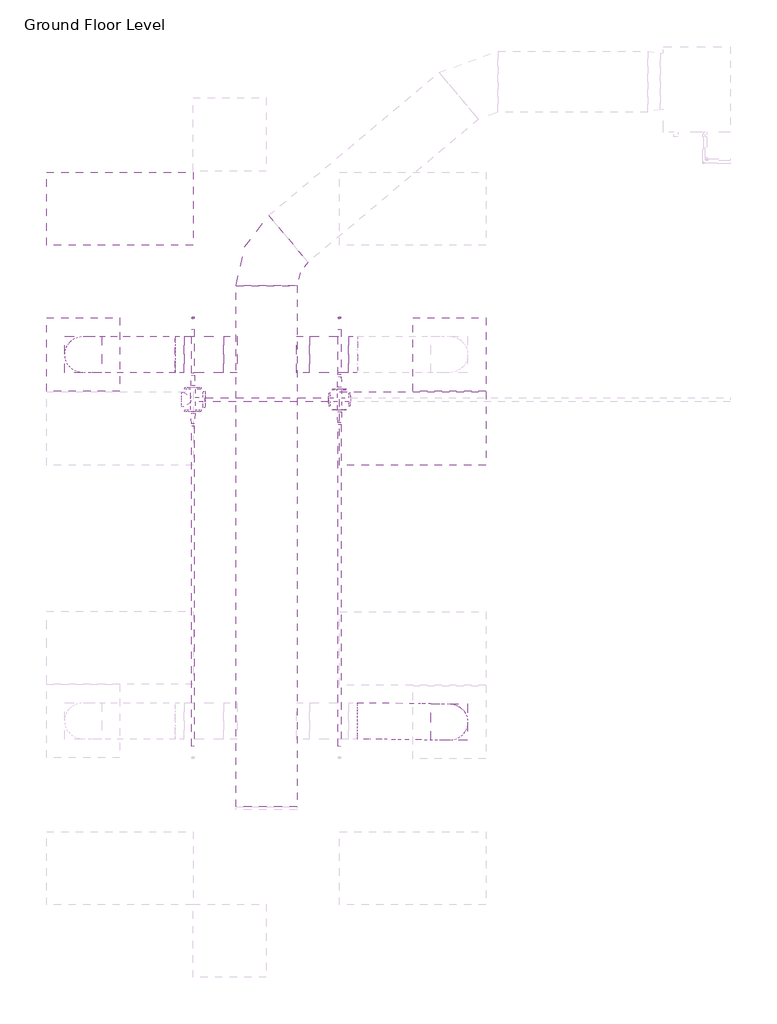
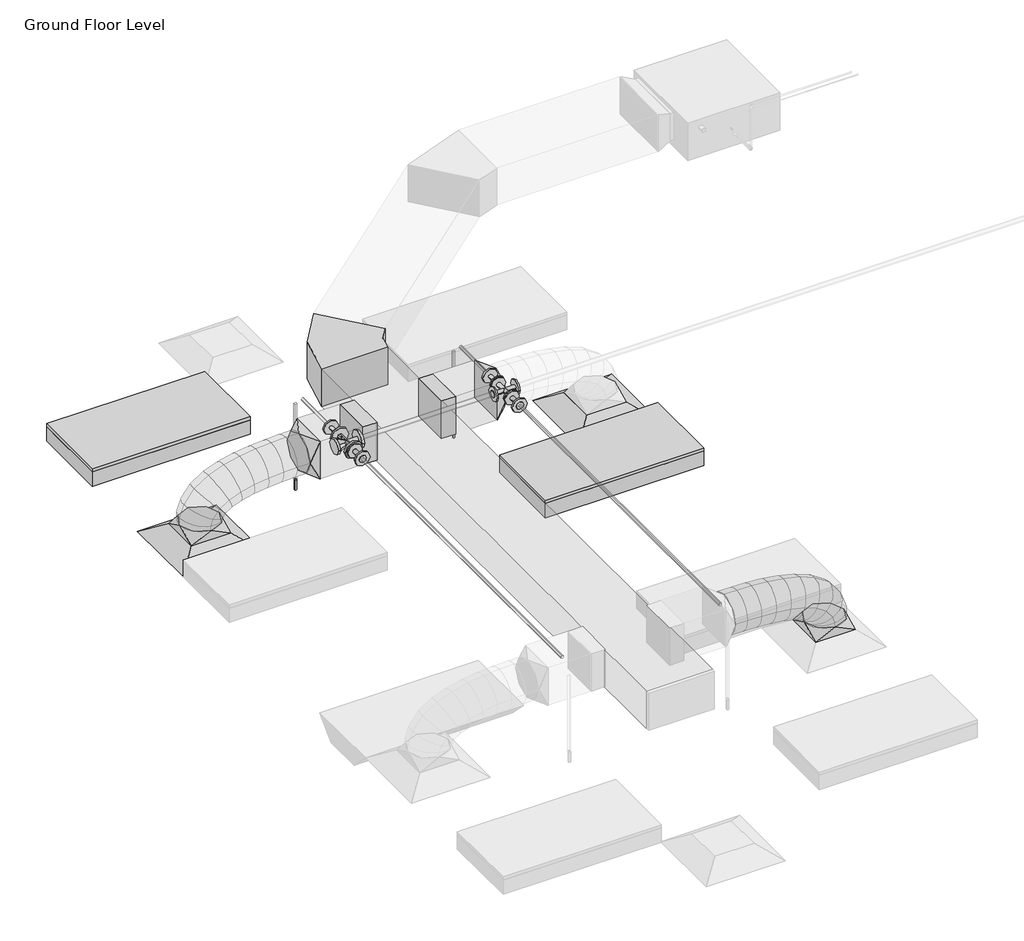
# One storey, part 2 of 74: 7 duct fittings, 7 pipe segments, 6 pipe fittings, 5 duct segments, 2 air terminals, 2 fire suppression terminals, 2 light fixtures.
"""IFC4 building model written with IfcOpenShell, lengths in millimetres."""

from ifc_helpers import new_model, si_unit, point, frame, frame_2d, origin, place, context, project, spatial, polyline, circle_curve, ellipse_curve, trimmed, segment, composite_curve, outline, extrude, transform, mapped, element, save
from ifc_brep_helpers import plane_surface, cylinder_surface, advanced_brep
from components import m_return_diffuser_600_x_600_face_300_x_300_connection_ff221211, m_rectangular_elbow_radius_1_w_5e0afaab, m_rectangular_takeoff_standard_cb0ccb98, m_rectangular_takeoff_standard_2be5eba1, m_rectangular_to_round_transition_angle_45_degree_641efff0, m_sprinkler_dry_pendent_hosted_15_mm_dry_pendent_9bda8e11, m_troffer_light_parabolic_rectangular1_0600x1200mm_4_lamp_86473d4a, m_cross_flanged_cs_class_150_standard_16d34c5c, m_reducer_flanged_cs_class_150_standard_ccf252ad, m_tee_round_base_flanged_cs_class_150_standard_7e5987a1

model = new_model("IFC4")

# Units and contexts
model_context = context("Model", 3, world=origin())
ifc_project = project(units=[si_unit("LENGTHUNIT", "METRE", prefix="MILLI")], contexts=[model_context])

# Site, building, storey
site = spatial("IfcSite", under=ifc_project)
building = spatial("IfcBuilding", under=site)
storey = spatial("IfcBuildingStorey", under=building, Name="Ground Floor Level", Elevation=900.0)

# Air terminals
placement = place(None, origin())
m_return_diffuser_600_x_600_face_300_x_300_connection_shape = m_return_diffuser_600_x_600_face_300_x_300_connection_ff221211(model_context)
element("IfcAirTerminal", 1, ObjectType="M_Supply Diffuser : 600 x 600 Face 300 x 300 Connection", at=placement, inside=storey, context=model_context, shape_type="MappedRepresentation", body=[
    mapped(m_return_diffuser_600_x_600_face_300_x_300_connection_shape, transform((-20337.2327605, -35664.7846466, 3650.0), x_axis=(1.0, 0.0, 0.0), y_axis=(0.0, 1.0, 0.0), z_axis=(0.0, 0.0, 1.0))),
])
element("IfcAirTerminal", 2, ObjectType="M_Supply Diffuser : 600 x 600 Face 300 x 300 Connection", at=placement, inside=storey, context=model_context, shape_type="MappedRepresentation", body=[
    mapped(m_return_diffuser_600_x_600_face_300_x_300_connection_shape, transform((-17337.2327605, -35664.7846466, 3650.0), x_axis=(1.0, 0.0, 0.0), y_axis=(0.0, 1.0, 0.0), z_axis=(0.0, 0.0, 1.0))),
])

# Duct fittings
m_rectangular_elbow_radius_1_w_shape = m_rectangular_elbow_radius_1_w_5e0afaab(model_context)
element("IfcDuctFitting", 3, ObjectType="M_Rectangular Elbow - Radius : 1 W", at=placement, inside=storey, context=model_context, shape_type="MappedRepresentation", body=[
    mapped(m_rectangular_elbow_radius_1_w_shape, transform((-18834.0450532, -34868.1580197, 4100.0), x_axis=(-0.7660444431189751, -0.6427876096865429, 0.0), y_axis=(0.6427876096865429, -0.7660444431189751, 0.0), z_axis=(0.0, 0.0, 1.0))),
])
m_rectangular_takeoff_standard_shape = m_rectangular_takeoff_standard_cb0ccb98(model_context)
element("IfcDuctFitting", 4, ObjectType="M_Rectangular Takeoff : Standard", at=placement, inside=storey, context=model_context, shape_type="MappedRepresentation", body=[
    mapped(m_rectangular_takeoff_standard_shape, transform((-18584.0450532, -35664.7846466, 4100.0), x_axis=(1.0, 0.0, 0.0), y_axis=(0.0, -1.0, 0.0), z_axis=(0.0, 0.0, -1.0))),
])
m_rectangular_takeoff_standard_2_shape = m_rectangular_takeoff_standard_2be5eba1(model_context)
element("IfcDuctFitting", 5, ObjectType="M_Rectangular Takeoff : Standard", at=placement, inside=storey, context=model_context, shape_type="MappedRepresentation", body=[
    mapped(m_rectangular_takeoff_standard_2_shape, transform((-19084.0450532, -35664.7846466, 4100.0), x_axis=(-1.0, 0.0, 0.0), y_axis=(0.0, 1.0, 0.0), z_axis=(0.0, 0.0, -1.0))),
])
m_rectangular_to_round_transition_angle_45_degree_shape = m_rectangular_to_round_transition_angle_45_degree_641efff0(model_context)
element("IfcDuctFitting", 6, ObjectType="M_Rectangular to Round Transition - Angle : 45 Degree", at=placement, inside=storey, context=model_context, shape_type="MappedRepresentation", body=[
    mapped(m_rectangular_to_round_transition_angle_45_degree_shape, transform((-17337.2327605, -38674.7846466, 3751.6), x_axis=(0.0, 0.0, 1.0), y_axis=(-1.0, 0.0, 0.0), z_axis=(0.0, -1.0, 0.0))),
])
element("IfcDuctFitting", 7, ObjectType="M_Rectangular to Round Transition - Angle : 45 Degree", at=placement, inside=storey, context=model_context, shape_type="MappedRepresentation", body=[
    mapped(m_rectangular_to_round_transition_angle_45_degree_shape, transform((-18164.5686918, -35664.7846466, 4100.0), x_axis=(1.0, 0.0, 0.0), y_axis=(0.0, 1.0, 0.0), z_axis=(0.0, 0.0, 1.0))),
])
element("IfcDuctFitting", 8, ObjectType="M_Rectangular to Round Transition - Angle : 45 Degree", at=placement, inside=storey, context=model_context, shape_type="MappedRepresentation", body=[
    mapped(m_rectangular_to_round_transition_angle_45_degree_shape, transform((-20337.2327605, -35664.7846466, 3751.6), x_axis=(0.0, 0.0, 1.0), y_axis=(-1.0, 0.0, 0.0), z_axis=(0.0, -1.0, 0.0))),
])
element("IfcDuctFitting", 9, ObjectType="M_Rectangular to Round Transition - Angle : 45 Degree", at=placement, inside=storey, context=model_context, shape_type="MappedRepresentation", body=[
    mapped(m_rectangular_to_round_transition_angle_45_degree_shape, transform((-19509.8968292, -35664.7846466, 4100.0), x_axis=(-1.0, 0.0, 0.0), y_axis=(0.0, -1.0, 0.0), z_axis=(0.0, 0.0, 1.0))),
])

# Duct segments
element("IfcDuctSegment", 10, ObjectType="Flex - Round", at=placement, inside=storey, context=model_context, shape_type="AdvancedBrep", body=[
    advanced_brep(
    [(-17187.2327605, -38674.7846466, 3826.6), (-17337.2327605, -38824.7846466, 3826.6), (-17487.2327605, -38674.7846466, 3826.6), (-17337.2327605, -38524.7846466, 3826.6), (-17187.2327605, -38674.7846466, 3883.5811435), (-17337.2327605, -38824.7846466, 3858.4573033), (-17487.2327605, -38674.7846466, 3832.2999102), (-17337.2327605, -38524.7846466, 3857.4237504), (-17220.5065009, -38674.1140276, 3978.0633672), (-17354.5653042, -38824.4353161, 3907.6738102), (-17487.9895144, -38674.7693946, 3834.4487455), (-17353.930711, -38524.4481061, 3904.8383025), (-17297.2134505, -38672.6198436, 4079.6143693), (-17402.2800911, -38823.5058739, 3970.8425901), (-17505.6468983, -38674.4254442, 3857.8250502), (-17400.5802577, -38523.5394138, 3966.5968294), (-17404.0296759, -38670.6335237, 4150.3133378), (-17474.402715, -38822.164705, 4018.5787378), (-17541.9381219, -38673.7505844, 3881.8452968), (-17471.5650828, -38522.2194031, 4013.5798968), (-17519.5269288, -38668.6120272, 4194.3234542), (-17564.8413306, -38820.5817986, 4053.0402848), (-17606.7007096, -38672.617074, 3906.5230182), (-17561.3863078, -38520.6473026, 4047.8061876), (-17639.435491, -38666.6780682, 4221.6077681), (-17667.8354832, -38818.9206456, 4076.4758488), (-17692.6136559, -38671.2314171, 3926.0718789), (-17664.2136637, -38518.9888397, 4071.2037982), (-17760.7431245, -38664.9367599, 4237.6990915), (-17777.628691, -38817.3446209, 4091.0397964), (-17791.098475, -38669.8177185, 3939.1357813), (-17774.2129084, -38517.4098575, 4085.7950764), (-17879.4797035, -38663.5145356, 4246.0651131), (-17888.4220057, -38816.0175409, 4098.8461461), (-17894.5345688, -38668.5787631, 3946.423751), (-17885.5922666, -38516.0757579, 4093.642718), (-17990.7832838, -38662.5538441, 4249.3731785), (-17994.3566612, -38815.10319, 4101.9946411), (-17996.1931578, -38667.7013202, 3949.4451566), (-17992.6197804, -38515.1519743, 4096.823694), (-18088.6372346, -38662.2045786, 4249.9749167), (-18089.0492722, -38514.807793, 4097.4166727), (-18090.500149, -38667.3647146, 3950.0250833), (-18090.0881114, -38814.7615002, 4102.5833273)],
    [
        (0, 1, circle_curve(frame((-17337.2327605, -38674.7846466, 3826.6), z_axis=(0.0, 0.0, -1.0), x_axis=(1.0, 0.0, 0.0)), 150.0)),
        (1, 2, circle_curve(frame((-17337.2327605, -38674.7846466, 3826.6), z_axis=(0.0, 0.0, -1.0), x_axis=(1.0, 0.0, 0.0)), 150.0)),
        (2, 3, circle_curve(frame((-17337.2327605, -38674.7846466, 3826.6), z_axis=(0.0, 0.0, -1.0), x_axis=(1.0, 0.0, 0.0)), 150.0)),
        (3, 0, circle_curve(frame((-17337.2327605, -38674.7846466, 3826.6), z_axis=(0.0, 0.0, -1.0), x_axis=(1.0, 0.0, 0.0)), 150.0)),
        (0, 4),
        (4, 5, ellipse_curve(frame((-17337.2327605, -38674.7846466, 3857.9405269), z_axis=(0.16849253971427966, -0.003395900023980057, -0.9856970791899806), x_axis=(-0.9854969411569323, 0.019862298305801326, -0.16852675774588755)), 152.1765694, 150.0)),
        (5, 1),
        (5, 6, ellipse_curve(frame((-17337.2327605, -38674.7846466, 3857.9405269), z_axis=(0.16849253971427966, -0.003395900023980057, -0.9856970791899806), x_axis=(-0.9854969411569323, 0.019862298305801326, -0.16852675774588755)), 152.1765694, 150.0)),
        (6, 2),
        (6, 7, ellipse_curve(frame((-17337.2327605, -38674.7846466, 3857.9405269), z_axis=(0.16849253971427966, -0.003395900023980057, -0.9856970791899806), x_axis=(-0.9854969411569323, 0.019862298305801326, -0.16852675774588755)), 152.1765694, 150.0)),
        (7, 3),
        (7, 4, ellipse_curve(frame((-17337.2327605, -38674.7846466, 3857.9405269), z_axis=(0.16849253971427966, -0.003395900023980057, -0.9856970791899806), x_axis=(-0.9854969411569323, 0.019862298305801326, -0.16852675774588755)), 152.1765694, 150.0)),
        (4, 8),
        (8, 9, ellipse_curve(frame((-17354.2480076, -38674.4417111, 3906.2560563), z_axis=(0.4730377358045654, -0.009327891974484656, -0.8809927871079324), x_axis=(-0.8808397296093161, 0.016427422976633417, -0.4731294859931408)), 151.8004616, 150.0)),
        (9, 5),
        (9, 10, ellipse_curve(frame((-17354.2480076, -38674.4417111, 3906.2560563), z_axis=(0.4730377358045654, -0.009327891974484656, -0.8809927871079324), x_axis=(-0.8808397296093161, 0.016427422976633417, -0.4731294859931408)), 151.8004616, 150.0)),
        (10, 6),
        (10, 11, ellipse_curve(frame((-17354.2480076, -38674.4417111, 3906.2560563), z_axis=(0.4730377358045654, -0.009327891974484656, -0.8809927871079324), x_axis=(-0.8808397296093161, 0.016427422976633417, -0.4731294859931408)), 151.8004616, 150.0)),
        (11, 7),
        (11, 8, ellipse_curve(frame((-17354.2480076, -38674.4417111, 3906.2560563), z_axis=(0.4730377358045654, -0.009327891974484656, -0.8809927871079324), x_axis=(-0.8808397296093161, 0.016427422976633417, -0.4731294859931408)), 151.8004616, 150.0)),
        (8, 12),
        (12, 13, ellipse_curve(frame((-17401.4301744, -38673.5226439, 3968.7197097), z_axis=(0.7286937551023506, -0.013820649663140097, -0.6847002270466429), x_axis=(-0.6846106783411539, 0.011153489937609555, -0.7288235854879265)), 152.1833249, 150.0)),
        (13, 9),
        (13, 14, ellipse_curve(frame((-17401.4301744, -38673.5226439, 3968.7197097), z_axis=(0.7286937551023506, -0.013820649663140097, -0.6847002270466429), x_axis=(-0.6846106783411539, 0.011153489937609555, -0.7288235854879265)), 152.1833249, 150.0)),
        (14, 10),
        (14, 15, ellipse_curve(frame((-17401.4301744, -38673.5226439, 3968.7197097), z_axis=(0.7286937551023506, -0.013820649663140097, -0.6847002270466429), x_axis=(-0.6846106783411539, 0.011153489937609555, -0.7288235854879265)), 152.1833249, 150.0)),
        (15, 11),
        (15, 12, ellipse_curve(frame((-17401.4301744, -38673.5226439, 3968.7197097), z_axis=(0.7286937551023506, -0.013820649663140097, -0.6847002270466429), x_axis=(-0.6846106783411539, 0.011153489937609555, -0.7288235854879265)), 152.1833249, 150.0)),
        (12, 16),
        (16, 17, ellipse_curve(frame((-17472.9838989, -38672.192054, 4016.0793173), z_axis=(0.8894658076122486, -0.01602642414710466, -0.4567206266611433), x_axis=(-0.4567209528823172, 0.003853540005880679, -0.889601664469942)), 150.9170048, 150.0)),
        (17, 13),
        (17, 18, ellipse_curve(frame((-17472.9838989, -38672.192054, 4016.0793173), z_axis=(0.8894658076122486, -0.01602642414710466, -0.4567206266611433), x_axis=(-0.4567209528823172, 0.003853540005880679, -0.889601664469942)), 150.9170048, 150.0)),
        (18, 14),
        (18, 19, ellipse_curve(frame((-17472.9838989, -38672.192054, 4016.0793173), z_axis=(0.8894658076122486, -0.01602642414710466, -0.4567206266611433), x_axis=(-0.4567209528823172, 0.003853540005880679, -0.889601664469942)), 150.9170048, 150.0)),
        (19, 15),
        (19, 16, ellipse_curve(frame((-17472.9838989, -38672.192054, 4016.0793173), z_axis=(0.8894658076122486, -0.01602642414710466, -0.4567206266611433), x_axis=(-0.4567209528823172, 0.003853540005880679, -0.889601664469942)), 150.9170048, 150.0)),
        (16, 20),
        (20, 21, ellipse_curve(frame((-17563.1138192, -38670.6145506, 4050.4232362), z_axis=(0.9569982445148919, -0.01607849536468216, -0.2896477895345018), x_axis=(-0.2897513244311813, -0.004483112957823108, -0.9570914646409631)), 150.3699058, 150.0)),
        (21, 17),
        (21, 22, ellipse_curve(frame((-17563.1138192, -38670.6145506, 4050.4232362), z_axis=(0.9569982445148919, -0.01607849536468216, -0.2896477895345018), x_axis=(-0.2897513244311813, -0.004483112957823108, -0.9570914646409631)), 150.3699058, 150.0)),
        (22, 18),
        (22, 23, ellipse_curve(frame((-17563.1138192, -38670.6145506, 4050.4232362), z_axis=(0.9569982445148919, -0.01607849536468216, -0.2896477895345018), x_axis=(-0.2897513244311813, -0.004483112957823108, -0.9570914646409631)), 150.3699058, 150.0)),
        (23, 19),
        (23, 20, ellipse_curve(frame((-17563.1138192, -38670.6145506, 4050.4232362), z_axis=(0.9569982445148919, -0.01607849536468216, -0.2896477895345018), x_axis=(-0.2897513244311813, -0.004483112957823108, -0.9570914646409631)), 150.3699058, 150.0)),
        (20, 24),
        (24, 25, ellipse_curve(frame((-17666.0245734, -38668.9547426, 4073.8398235), z_axis=(0.984123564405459, -0.014992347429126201, -0.1768503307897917), x_axis=(-0.17708719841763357, -0.016295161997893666, -0.9840602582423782)), 150.1583433, 150.0)),
        (25, 21),
        (25, 26, ellipse_curve(frame((-17666.0245734, -38668.9547426, 4073.8398235), z_axis=(0.984123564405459, -0.014992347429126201, -0.1768503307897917), x_axis=(-0.17708719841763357, -0.016295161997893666, -0.9840602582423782)), 150.1583433, 150.0)),
        (26, 22),
        (26, 27, ellipse_curve(frame((-17666.0245734, -38668.9547426, 4073.8398235), z_axis=(0.984123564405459, -0.014992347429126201, -0.1768503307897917), x_axis=(-0.17708719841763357, -0.016295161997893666, -0.9840602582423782)), 150.1583433, 150.0)),
        (27, 23),
        (27, 24, ellipse_curve(frame((-17666.0245734, -38668.9547426, 4073.8398235), z_axis=(0.984123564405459, -0.014992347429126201, -0.1768503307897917), x_axis=(-0.17708719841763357, -0.016295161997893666, -0.9840602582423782)), 150.1583433, 150.0)),
        (24, 28),
        (28, 29, ellipse_curve(frame((-17775.9207997, -38667.3772392, 4088.4174364), z_axis=(0.994807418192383, -0.013094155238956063, -0.10092940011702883), x_axis=(-0.10135143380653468, -0.03704920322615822, -0.9941605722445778)), 150.071115, 150.0)),
        (29, 25),
        (29, 30, ellipse_curve(frame((-17775.9207997, -38667.3772392, 4088.4174364), z_axis=(0.994807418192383, -0.013094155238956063, -0.10092940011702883), x_axis=(-0.10135143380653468, -0.03704920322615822, -0.9941605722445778)), 150.071115, 150.0)),
        (30, 26),
        (30, 31, ellipse_curve(frame((-17775.9207997, -38667.3772392, 4088.4174364), z_axis=(0.994807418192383, -0.013094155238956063, -0.10092940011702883), x_axis=(-0.10135143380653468, -0.03704920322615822, -0.9941605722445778)), 150.071115, 150.0)),
        (31, 27),
        (31, 28, ellipse_curve(frame((-17775.9207997, -38667.3772392, 4088.4174364), z_axis=(0.994807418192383, -0.013094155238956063, -0.10092940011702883), x_axis=(-0.10135143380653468, -0.03704920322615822, -0.9941605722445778)), 150.071115, 150.0)),
        (28, 32),
        (32, 33, ellipse_curve(frame((-17887.0071361, -38666.0466494, 4096.2444321), z_axis=(0.9986960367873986, -0.01028946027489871, -0.050003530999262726), x_axis=(-0.05067714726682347, -0.08146024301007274, -0.9953873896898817)), 150.0311614, 150.0)),
        (33, 29),
        (33, 34, ellipse_curve(frame((-17887.0071361, -38666.0466494, 4096.2444321), z_axis=(0.9986960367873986, -0.01028946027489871, -0.050003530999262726), x_axis=(-0.05067714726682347, -0.08146024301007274, -0.9953873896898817)), 150.0311614, 150.0)),
        (34, 30),
        (34, 35, ellipse_curve(frame((-17887.0071361, -38666.0466494, 4096.2444321), z_axis=(0.9986960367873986, -0.01028946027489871, -0.050003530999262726), x_axis=(-0.05067714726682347, -0.08146024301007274, -0.9953873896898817)), 150.0311614, 150.0)),
        (35, 31),
        (35, 32, ellipse_curve(frame((-17887.0071361, -38666.0466494, 4096.2444321), z_axis=(0.9986960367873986, -0.01028946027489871, -0.050003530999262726), x_axis=(-0.05067714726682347, -0.08146024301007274, -0.9953873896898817)), 150.0311614, 150.0)),
        (32, 36),
        (36, 37, ellipse_curve(frame((-17993.4882208, -38665.1275822, 4099.4091675), z_axis=(0.9998206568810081, -0.006098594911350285, -0.017929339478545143), x_axis=(-0.018810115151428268, -0.2098848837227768, -0.9775451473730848)), 150.0108903, 150.0)),
        (37, 33),
        (37, 38, ellipse_curve(frame((-17993.4882208, -38665.1275822, 4099.4091675), z_axis=(0.9998206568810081, -0.006098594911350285, -0.017929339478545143), x_axis=(-0.018810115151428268, -0.2098848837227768, -0.9775451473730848)), 150.0108903, 150.0)),
        (38, 34),
        (38, 39, ellipse_curve(frame((-17993.4882208, -38665.1275822, 4099.4091675), z_axis=(0.9998206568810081, -0.006098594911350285, -0.017929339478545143), x_axis=(-0.018810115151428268, -0.2098848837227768, -0.9775451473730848)), 150.0108903, 150.0)),
        (39, 35),
        (39, 36, ellipse_curve(frame((-17993.4882208, -38665.1275822, 4099.4091675), z_axis=(0.9998206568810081, -0.006098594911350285, -0.017929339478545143), x_axis=(-0.018810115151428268, -0.2098848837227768, -0.9775451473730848)), 150.0108903, 150.0)),
        (40, 41, circle_curve(frame((-18089.5686918, -38664.7846466, 4100.0), z_axis=(-0.9999747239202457, 0.0035691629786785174, 0.006149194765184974), x_axis=(0.006209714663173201, 0.017200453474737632, 0.9998327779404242)), 150.0)),
        (41, 42, circle_curve(frame((-18089.5686918, -38664.7846466, 4100.0), z_axis=(-0.9999747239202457, 0.0035691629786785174, 0.006149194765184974), x_axis=(0.006209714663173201, 0.017200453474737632, 0.9998327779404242)), 150.0)),
        (42, 43, circle_curve(frame((-18089.5686918, -38664.7846466, 4100.0), z_axis=(-0.9999747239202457, 0.0035691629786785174, 0.006149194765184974), x_axis=(0.006209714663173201, 0.017200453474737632, 0.9998327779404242)), 150.0)),
        (43, 40, circle_curve(frame((-18089.5686918, -38664.7846466, 4100.0), z_axis=(-0.9999747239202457, 0.0035691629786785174, 0.006149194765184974), x_axis=(0.006209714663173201, 0.017200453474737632, 0.9998327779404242)), 150.0)),
        (36, 40),
        (43, 37),
        (42, 38),
        (41, 39),
    ],
    [
        plane_surface(frame((-17337.2327605, -38824.7846466, 3826.6), z_axis=(0.0, 0.0, -1.0), x_axis=(1.0, 0.0, 0.0))),
        cylinder_surface(frame((-17337.2327605, -38674.7846466, 3826.6), z_axis=(0.0, 0.0, -1.0), x_axis=(1.0, 0.0, 0.0)), 150.0),
        cylinder_surface(frame((-17337.2327605, -38674.7846466, 3857.9405269), z_axis=(0.3321652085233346, -0.006694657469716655, -0.9431974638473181), x_axis=(0.9432205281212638, 0.0011443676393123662, 0.3321652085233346)), 150.0),
        cylinder_surface(frame((-17354.2480076, -38674.4417111, 3906.2560563), z_axis=(0.6026891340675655, -0.011739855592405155, -0.7978897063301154), x_axis=(0.7979666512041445, 0.004008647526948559, 0.6026882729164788)), 150.0),
        cylinder_surface(frame((-17401.4301744, -38673.5226439, 3968.7197097), z_axis=(0.8337897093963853, -0.015504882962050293, -0.5518644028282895), x_axis=(0.5520221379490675, 0.008673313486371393, 0.8337843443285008)), 150.0),
        cylinder_surface(frame((-17472.9838989, -38672.192054, 4016.0793173), z_axis=(0.9343327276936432, -0.01635320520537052, -0.35602658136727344), x_axis=(0.3562341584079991, 0.012201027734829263, 0.9343170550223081)), 150.0),
        cylinder_surface(frame((-17563.1138192, -38670.6145506, 4050.4232362), z_axis=(0.9749553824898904, -0.01572468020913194, -0.22184394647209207), x_axis=(0.22206985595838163, 0.01445511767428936, 0.9749236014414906)), 150.0),
        cylinder_surface(frame((-17666.0245734, -38668.9547426, 4073.8398235), z_axis=(0.9912162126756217, -0.014228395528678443, -0.131483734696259), x_axis=(0.13170388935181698, 0.015831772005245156, 0.9911626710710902)), 150.0),
        cylinder_surface(frame((-17775.9207997, -38667.3772392, 4088.4174364), z_axis=(0.9974557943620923, -0.0119475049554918, -0.070279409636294), x_axis=(0.07047299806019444, 0.016637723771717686, 0.9973749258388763)), 150.0),
        cylinder_surface(frame((-17887.0071361, -38666.0466494, 4096.2444321), z_axis=(0.9995214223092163, -0.008627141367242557, -0.029706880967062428), x_axis=(0.02985075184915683, 0.01705625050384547, 0.9994088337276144)), 150.0),
        plane_surface(frame((-18089.5686918, -38794.5152374, 4175.2992285), z_axis=(-0.9999747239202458, 0.00356916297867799, 0.006149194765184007), x_axis=(0.007109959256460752, 0.5019821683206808, 0.8648487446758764))),
        cylinder_surface(frame((-17993.4882208, -38665.1275822, 4099.4091675), z_axis=(0.9999747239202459, -0.0035691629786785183, -0.0061491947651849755), x_axis=(0.006209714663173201, 0.017200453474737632, 0.9998327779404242)), 150.0),
    ],
    [
        (0, [[1, 2, 3, 4]]),
        (1, [[-1, 5, 6, 7]]),
        (1, [[-2, -7, 8, 9]]),
        (1, [[-3, -9, 10, 11]]),
        (1, [[-4, -11, 12, -5]]),
        (2, [[-6, 13, 14, 15]]),
        (2, [[-8, -15, 16, 17]]),
        (2, [[-10, -17, 18, 19]]),
        (2, [[-12, -19, 20, -13]]),
        (3, [[-14, 21, 22, 23]]),
        (3, [[-16, -23, 24, 25]]),
        (3, [[-18, -25, 26, 27]]),
        (3, [[-20, -27, 28, -21]]),
        (4, [[-22, 29, 30, 31]]),
        (4, [[-24, -31, 32, 33]]),
        (4, [[-26, -33, 34, 35]]),
        (4, [[-28, -35, 36, -29]]),
        (5, [[-30, 37, 38, 39]]),
        (5, [[-32, -39, 40, 41]]),
        (5, [[-34, -41, 42, 43]]),
        (5, [[-36, -43, 44, -37]]),
        (6, [[-38, 45, 46, 47]]),
        (6, [[-40, -47, 48, 49]]),
        (6, [[-42, -49, 50, 51]]),
        (6, [[-44, -51, 52, -45]]),
        (7, [[-46, 53, 54, 55]]),
        (7, [[-48, -55, 56, 57]]),
        (7, [[-50, -57, 58, 59]]),
        (7, [[-52, -59, 60, -53]]),
        (8, [[-54, 61, 62, 63]]),
        (8, [[-56, -63, 64, 65]]),
        (8, [[-58, -65, 66, 67]]),
        (8, [[-60, -67, 68, -61]]),
        (9, [[-62, 69, 70, 71]]),
        (9, [[-64, -71, 72, 73]]),
        (9, [[-66, -73, 74, 75]]),
        (9, [[-68, -75, 76, -69]]),
        (10, [[77, 78, 79, 80]]),
        (11, [[-70, 81, -80, 82]]),
        (11, [[-72, -82, -79, 83]]),
        (11, [[-74, -83, -78, 84]]),
        (11, [[-76, -84, -77, -81]]),
    ],
),
])
element("IfcDuctSegment", 11, ObjectType="Flex - Round", at=placement, inside=storey, context=model_context, shape_type="AdvancedBrep", body=[
    advanced_brep(
    [(-20187.2327605, -35664.7846466, 3826.6), (-20337.2327605, -35814.7846466, 3826.6), (-20487.2327605, -35664.7846466, 3826.6), (-20337.2327605, -35514.7846466, 3826.6), (-20187.2327605, -35664.7846466, 3832.2944892), (-20337.2327605, -35814.7846466, 3857.9377114), (-20487.2327605, -35664.7846466, 3883.5809337), (-20337.2327605, -35514.7846466, 3857.9377114), (-20186.478849, -35664.7846466, 3834.435049), (-20320.216828, -35814.7846466, 3906.2505728), (-20453.9548069, -35664.7846466, 3978.0660967), (-20320.216828, -35514.7846466, 3906.2505728), (-20168.8270484, -35664.7846466, 3857.8020236), (-20273.0329476, -35814.7846466, 3968.7113131), (-20377.2388469, -35664.7846466, 4079.6206026), (-20273.0329476, -35514.7846466, 3968.7113131), (-20132.5429398, -35664.7846466, 3881.8163788), (-20201.4769955, -35814.7846466, 4016.0700639), (-20270.4110511, -35664.7846466, 4150.3237489), (-20201.4769955, -35514.7846466, 4016.0700639), (-20067.7840843, -35664.7846466, 3906.4925606), (-20111.3448475, -35814.7846466, 4050.4146682), (-20154.9056106, -35664.7846466, 4194.3367758), (-20111.3448475, -35514.7846466, 4050.4146682), (-19981.8714556, -35664.7846466, 3926.0424542), (-20008.4323796, -35814.7846466, 4073.8329691), (-20034.9933036, -35664.7846466, 4221.6234841), (-20008.4323796, -35514.7846466, 4073.8329691), (-19883.3845655, -35664.7846466, 3939.1085462), (-19898.5354679, -35814.7846466, 4088.4128097), (-19913.6863702, -35664.7846466, 4237.7170733), (-19898.5354679, -35514.7846466, 4088.4128097), (-19779.9446601, -35664.7846466, 3946.398915), (-19787.4499883, -35814.7846466, 4096.242033), (-19794.9553164, -35664.7846466, 4246.085151), (-19787.4499883, -35514.7846466, 4096.242033), (-19678.2803236, -35664.7846466, 3949.4222102), (-19680.9718167, -35814.7846466, 4099.4084821), (-19683.6633098, -35664.7846466, 4249.394754), (-19680.9718167, -35514.7846466, 4099.4084821), (-19583.9733214, -35664.7846466, 3950.0028429), (-19584.8968292, -35814.7846466, 4100.0), (-19585.8203371, -35664.7846466, 4249.9971571), (-19584.8968292, -35514.7846466, 4100.0)],
    [
        (0, 1, circle_curve(frame((-20337.2327605, -35664.7846466, 3826.6), z_axis=(0.0, 0.0, -1.0), x_axis=(1.0, 0.0, 0.0)), 150.0)),
        (1, 2, circle_curve(frame((-20337.2327605, -35664.7846466, 3826.6), z_axis=(0.0, 0.0, -1.0), x_axis=(1.0, 0.0, 0.0)), 150.0)),
        (2, 3, circle_curve(frame((-20337.2327605, -35664.7846466, 3826.6), z_axis=(0.0, 0.0, -1.0), x_axis=(1.0, 0.0, 0.0)), 150.0)),
        (3, 0, circle_curve(frame((-20337.2327605, -35664.7846466, 3826.6), z_axis=(0.0, 0.0, -1.0), x_axis=(1.0, 0.0, 0.0)), 150.0)),
        (0, 4),
        (4, 5, ellipse_curve(frame((-20337.2327605, -35664.7846466, 3857.9377114), z_axis=(-0.16851014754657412, 0.0, -0.9856999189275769), x_axis=(0.9856999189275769, 0.0, -0.16851014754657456)), 152.176131, 150.0)),
        (5, 1),
        (5, 6, ellipse_curve(frame((-20337.2327605, -35664.7846466, 3857.9377114), z_axis=(-0.16851014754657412, 0.0, -0.9856999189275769), x_axis=(0.9856999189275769, 0.0, -0.16851014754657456)), 152.176131, 150.0)),
        (6, 2),
        (6, 7, ellipse_curve(frame((-20337.2327605, -35664.7846466, 3857.9377114), z_axis=(-0.16851014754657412, 0.0, -0.9856999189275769), x_axis=(0.9856999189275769, 0.0, -0.16851014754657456)), 152.176131, 150.0)),
        (7, 3),
        (7, 4, ellipse_curve(frame((-20337.2327605, -35664.7846466, 3857.9377114), z_axis=(-0.16851014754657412, 0.0, -0.9856999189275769), x_axis=(0.9856999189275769, 0.0, -0.16851014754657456)), 152.176131, 150.0)),
        (4, 8),
        (8, 9, ellipse_curve(frame((-20320.216828, -35664.7846466, 3906.2505728), z_axis=(-0.47309225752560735, 0.0, -0.881012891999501), x_axis=(0.8810128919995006, 0.0, -0.4730922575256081)), 151.8002519, 150.0)),
        (9, 5),
        (9, 10, ellipse_curve(frame((-20320.216828, -35664.7846466, 3906.2505728), z_axis=(-0.47309225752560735, 0.0, -0.881012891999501), x_axis=(0.8810128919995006, 0.0, -0.4730922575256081)), 151.8002519, 150.0)),
        (10, 6),
        (10, 11, ellipse_curve(frame((-20320.216828, -35664.7846466, 3906.2505728), z_axis=(-0.47309225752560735, 0.0, -0.881012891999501), x_axis=(0.8810128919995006, 0.0, -0.4730922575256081)), 151.8002519, 150.0)),
        (11, 7),
        (11, 8, ellipse_curve(frame((-20320.216828, -35664.7846466, 3906.2505728), z_axis=(-0.47309225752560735, 0.0, -0.881012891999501), x_axis=(0.8810128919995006, 0.0, -0.4730922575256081)), 151.8002519, 150.0)),
        (8, 12),
        (12, 13, ellipse_curve(frame((-20273.0329476, -35664.7846466, 3968.7113131), z_axis=(-0.7287877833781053, 0.0, -0.6847396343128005), x_axis=(0.6847396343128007, 0.0, -0.7287877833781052)), 152.1832446, 150.0)),
        (13, 9),
        (13, 14, ellipse_curve(frame((-20273.0329476, -35664.7846466, 3968.7113131), z_axis=(-0.7287877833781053, 0.0, -0.6847396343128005), x_axis=(0.6847396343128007, 0.0, -0.7287877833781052)), 152.1832446, 150.0)),
        (14, 10),
        (14, 15, ellipse_curve(frame((-20273.0329476, -35664.7846466, 3968.7113131), z_axis=(-0.7287877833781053, 0.0, -0.6847396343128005), x_axis=(0.6847396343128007, 0.0, -0.7287877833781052)), 152.1832446, 150.0)),
        (15, 11),
        (15, 12, ellipse_curve(frame((-20273.0329476, -35664.7846466, 3968.7113131), z_axis=(-0.7287877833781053, 0.0, -0.6847396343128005), x_axis=(0.6847396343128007, 0.0, -0.7287877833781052)), 152.1832446, 150.0)),
        (12, 16),
        (16, 17, ellipse_curve(frame((-20201.4769955, -35664.7846466, 4016.0700639), z_axis=(-0.8895859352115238, 0.0, -0.45676784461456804), x_axis=(0.45676784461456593, 0.0, -0.8895859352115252)), 150.91705, 150.0)),
        (17, 13),
        (17, 18, ellipse_curve(frame((-20201.4769955, -35664.7846466, 4016.0700639), z_axis=(-0.8895859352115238, 0.0, -0.45676784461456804), x_axis=(0.45676784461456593, 0.0, -0.8895859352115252)), 150.91705, 150.0)),
        (18, 14),
        (18, 19, ellipse_curve(frame((-20201.4769955, -35664.7846466, 4016.0700639), z_axis=(-0.8895859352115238, 0.0, -0.45676784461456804), x_axis=(0.45676784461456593, 0.0, -0.8895859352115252)), 150.91705, 150.0)),
        (19, 15),
        (19, 16, ellipse_curve(frame((-20201.4769955, -35664.7846466, 4016.0700639), z_axis=(-0.8895859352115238, 0.0, -0.45676784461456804), x_axis=(0.45676784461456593, 0.0, -0.8895859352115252)), 150.91705, 150.0)),
        (16, 20),
        (20, 21, ellipse_curve(frame((-20111.3448475, -35664.7846466, 4050.4146682), z_axis=(-0.95712032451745, 0.0, -0.2896906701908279), x_axis=(0.28969067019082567, 0.0, -0.9571203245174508)), 150.369921, 150.0)),
        (21, 17),
        (21, 22, ellipse_curve(frame((-20111.3448475, -35664.7846466, 4050.4146682), z_axis=(-0.95712032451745, 0.0, -0.2896906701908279), x_axis=(0.28969067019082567, 0.0, -0.9571203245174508)), 150.369921, 150.0)),
        (22, 18),
        (22, 23, ellipse_curve(frame((-20111.3448475, -35664.7846466, 4050.4146682), z_axis=(-0.95712032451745, 0.0, -0.2896906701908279), x_axis=(0.28969067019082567, 0.0, -0.9571203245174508)), 150.369921, 150.0)),
        (23, 19),
        (23, 20, ellipse_curve(frame((-20111.3448475, -35664.7846466, 4050.4146682), z_axis=(-0.95712032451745, 0.0, -0.2896906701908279), x_axis=(0.28969067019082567, 0.0, -0.9571203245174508)), 150.369921, 150.0)),
        (20, 24),
        (24, 25, ellipse_curve(frame((-20008.4323796, -35664.7846466, 4073.8329691), z_axis=(-0.984231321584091, 0.0, -0.1768861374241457), x_axis=(0.17688613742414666, 0.0, -0.9842313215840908)), 150.1583131, 150.0)),
        (25, 21),
        (25, 26, ellipse_curve(frame((-20008.4323796, -35664.7846466, 4073.8329691), z_axis=(-0.984231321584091, 0.0, -0.1768861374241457), x_axis=(0.17688613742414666, 0.0, -0.9842313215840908)), 150.1583131, 150.0)),
        (26, 22),
        (26, 27, ellipse_curve(frame((-20008.4323796, -35664.7846466, 4073.8329691), z_axis=(-0.984231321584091, 0.0, -0.1768861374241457), x_axis=(0.17688613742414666, 0.0, -0.9842313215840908)), 150.1583131, 150.0)),
        (27, 23),
        (27, 24, ellipse_curve(frame((-20008.4323796, -35664.7846466, 4073.8329691), z_axis=(-0.984231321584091, 0.0, -0.1768861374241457), x_axis=(0.17688613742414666, 0.0, -0.9842313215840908)), 150.1583131, 150.0)),
        (24, 28),
        (28, 29, ellipse_curve(frame((-19898.5354679, -35664.7846466, 4088.4128097), z_axis=(-0.9948906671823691, 0.0, -0.10095821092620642), x_axis=(0.1009582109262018, 0.0, -0.9948906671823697)), 150.0710264, 150.0)),
        (29, 25),
        (29, 30, ellipse_curve(frame((-19898.5354679, -35664.7846466, 4088.4128097), z_axis=(-0.9948906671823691, 0.0, -0.10095821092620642), x_axis=(0.1009582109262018, 0.0, -0.9948906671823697)), 150.0710264, 150.0)),
        (30, 26),
        (30, 31, ellipse_curve(frame((-19898.5354679, -35664.7846466, 4088.4128097), z_axis=(-0.9948906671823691, 0.0, -0.10095821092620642), x_axis=(0.1009582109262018, 0.0, -0.9948906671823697)), 150.0710264, 150.0)),
        (31, 27),
        (31, 28, ellipse_curve(frame((-19898.5354679, -35664.7846466, 4088.4128097), z_axis=(-0.9948906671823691, 0.0, -0.10095821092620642), x_axis=(0.1009582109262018, 0.0, -0.9948906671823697)), 150.0710264, 150.0)),
        (28, 32),
        (32, 33, ellipse_curve(frame((-19787.4499883, -35664.7846466, 4096.242033), z_axis=(-0.9987479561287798, 0.0, -0.050025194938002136), x_axis=(0.050025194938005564, 0.0, -0.9987479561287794)), 150.0309634, 150.0)),
        (33, 29),
        (33, 34, ellipse_curve(frame((-19787.4499883, -35664.7846466, 4096.242033), z_axis=(-0.9987479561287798, 0.0, -0.050025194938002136), x_axis=(0.050025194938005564, 0.0, -0.9987479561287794)), 150.0309634, 150.0)),
        (34, 30),
        (34, 35, ellipse_curve(frame((-19787.4499883, -35664.7846466, 4096.242033), z_axis=(-0.9987479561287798, 0.0, -0.050025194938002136), x_axis=(0.050025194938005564, 0.0, -0.9987479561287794)), 150.0309634, 150.0)),
        (35, 31),
        (35, 32, ellipse_curve(frame((-19787.4499883, -35664.7846466, 4096.242033), z_axis=(-0.9987479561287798, 0.0, -0.050025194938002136), x_axis=(0.050025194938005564, 0.0, -0.9987479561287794)), 150.0309634, 150.0)),
        (32, 36),
        (36, 37, ellipse_curve(frame((-19680.9718167, -35664.7846466, 4099.4084821), z_axis=(-0.9998390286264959, 0.0, -0.017942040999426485), x_axis=(0.01794204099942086, 0.0, -0.999839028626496)), 150.0104193, 150.0)),
        (37, 33),
        (37, 38, ellipse_curve(frame((-19680.9718167, -35664.7846466, 4099.4084821), z_axis=(-0.9998390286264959, 0.0, -0.017942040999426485), x_axis=(0.01794204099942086, 0.0, -0.999839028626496)), 150.0104193, 150.0)),
        (38, 34),
        (38, 39, ellipse_curve(frame((-19680.9718167, -35664.7846466, 4099.4084821), z_axis=(-0.9998390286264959, 0.0, -0.017942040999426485), x_axis=(0.01794204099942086, 0.0, -0.999839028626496)), 150.0104193, 150.0)),
        (39, 35),
        (39, 36, ellipse_curve(frame((-19680.9718167, -35664.7846466, 4099.4084821), z_axis=(-0.9998390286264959, 0.0, -0.017942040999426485), x_axis=(0.01794204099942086, 0.0, -0.999839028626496)), 150.0104193, 150.0)),
        (36, 40),
        (40, 41, circle_curve(frame((-19584.8968292, -35664.7846466, 4100.0), z_axis=(-0.9999810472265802, 0.0, -0.006156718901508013), x_axis=(0.006156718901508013, 0.0, -0.9999810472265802)), 150.0)),
        (41, 37),
        (41, 42, circle_curve(frame((-19584.8968292, -35664.7846466, 4100.0), z_axis=(-0.9999810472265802, 0.0, -0.006156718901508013), x_axis=(0.006156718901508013, 0.0, -0.9999810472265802)), 150.0)),
        (42, 38),
        (42, 43, circle_curve(frame((-19584.8968292, -35664.7846466, 4100.0), z_axis=(-0.9999810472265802, 0.0, -0.006156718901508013), x_axis=(0.006156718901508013, 0.0, -0.9999810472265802)), 150.0)),
        (43, 39),
        (43, 40, circle_curve(frame((-19584.8968292, -35664.7846466, 4100.0), z_axis=(-0.9999810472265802, 0.0, -0.006156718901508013), x_axis=(0.006156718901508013, 0.0, -0.9999810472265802)), 150.0)),
    ],
    [
        plane_surface(frame((-20337.2327605, -35814.7846466, 3826.6), z_axis=(0.0, 0.0, -1.0), x_axis=(1.0, 0.0, 0.0))),
        cylinder_surface(frame((-20337.2327605, -35664.7846466, 3826.6), z_axis=(0.0, 0.0, -1.0), x_axis=(1.0, 0.0, 0.0)), 150.0),
        cylinder_surface(frame((-20337.2327605, -35664.7846466, 3857.9377114), z_axis=(-0.3322008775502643, 0.0, -0.9432086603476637), x_axis=(0.9432086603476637, 0.0, -0.3322008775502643)), 150.0),
        cylinder_surface(frame((-20320.216828, -35664.7846466, 3906.2505728), z_axis=(-0.602762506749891, 0.0, -0.7979206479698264), x_axis=(0.7979206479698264, 0.0, -0.602762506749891)), 150.0),
        cylinder_surface(frame((-20273.0329476, -35664.7846466, 3968.7113131), z_axis=(-0.8339024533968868, 0.0, -0.5519118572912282), x_axis=(0.5519118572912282, 0.0, -0.8339024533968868)), 150.0),
        cylinder_surface(frame((-20201.4769955, -35664.7846466, 4016.0700639), z_axis=(-0.9344582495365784, 0.0, -0.3560727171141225), x_axis=(0.3560727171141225, 0.0, -0.9344582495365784)), 150.0),
        cylinder_surface(frame((-20111.3448475, -35664.7846466, 4050.4146682), z_axis=(-0.9750732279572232, 0.0, -0.2218833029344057), x_axis=(0.2218833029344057, 0.0, -0.9750732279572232)), 150.0),
        cylinder_surface(frame((-20008.4323796, -35664.7846466, 4073.8329691), z_axis=(-0.991314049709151, 0.0, -0.13151598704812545), x_axis=(0.13151598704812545, 0.0, -0.991314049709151)), 150.0),
        cylinder_surface(frame((-19898.5354679, -35664.7846466, 4088.4128097), z_axis=(-0.9975255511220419, 0.0, -0.07030487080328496), x_axis=(0.07030487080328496, 0.0, -0.9975255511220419)), 150.0),
        cylinder_surface(frame((-19787.4499883, -35664.7846466, 4096.242033), z_axis=(-0.9995581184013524, 0.0, -0.029724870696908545), x_axis=(0.029724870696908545, 0.0, -0.9995581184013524)), 150.0),
        cylinder_surface(frame((-19680.9718167, -35664.7846466, 4099.4084821), z_axis=(-0.9999810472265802, 0.0, -0.006156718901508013), x_axis=(0.006156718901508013, 0.0, -0.9999810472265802)), 150.0),
        plane_surface(frame((-19584.8968292, -35814.7846466, 4100.0), z_axis=(0.9999810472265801, 0.0, 0.00615671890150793), x_axis=(0.00615671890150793, 0.0, -0.9999810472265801))),
    ],
    [
        (0, [[1, 2, 3, 4]]),
        (1, [[-1, 5, 6, 7]]),
        (1, [[-2, -7, 8, 9]]),
        (1, [[-3, -9, 10, 11]]),
        (1, [[-4, -11, 12, -5]]),
        (2, [[-6, 13, 14, 15]]),
        (2, [[-8, -15, 16, 17]]),
        (2, [[-10, -17, 18, 19]]),
        (2, [[-12, -19, 20, -13]]),
        (3, [[-14, 21, 22, 23]]),
        (3, [[-16, -23, 24, 25]]),
        (3, [[-18, -25, 26, 27]]),
        (3, [[-20, -27, 28, -21]]),
        (4, [[-22, 29, 30, 31]]),
        (4, [[-24, -31, 32, 33]]),
        (4, [[-26, -33, 34, 35]]),
        (4, [[-28, -35, 36, -29]]),
        (5, [[-30, 37, 38, 39]]),
        (5, [[-32, -39, 40, 41]]),
        (5, [[-34, -41, 42, 43]]),
        (5, [[-36, -43, 44, -37]]),
        (6, [[-38, 45, 46, 47]]),
        (6, [[-40, -47, 48, 49]]),
        (6, [[-42, -49, 50, 51]]),
        (6, [[-44, -51, 52, -45]]),
        (7, [[-46, 53, 54, 55]]),
        (7, [[-48, -55, 56, 57]]),
        (7, [[-50, -57, 58, 59]]),
        (7, [[-52, -59, 60, -53]]),
        (8, [[-54, 61, 62, 63]]),
        (8, [[-56, -63, 64, 65]]),
        (8, [[-58, -65, 66, 67]]),
        (8, [[-60, -67, 68, -61]]),
        (9, [[-62, 69, 70, 71]]),
        (9, [[-64, -71, 72, 73]]),
        (9, [[-66, -73, 74, 75]]),
        (9, [[-68, -75, 76, -69]]),
        (10, [[-70, 77, 78, 79]]),
        (10, [[-72, -79, 80, 81]]),
        (10, [[-74, -81, 82, 83]]),
        (10, [[-76, -83, 84, -77]]),
        (11, [[-84, -82, -80, -78]]),
    ],
),
])
element("IfcDuctSegment", 12, ObjectType="Radius Elbows / Taps", at=placement, inside=storey, context=model_context, shape_type="SweptSolid", body=[
    extrude(outline(polyline([(-19084.0450532, -35101.3118488), (-18584.0450532, -35101.3118488), (-18584.0450532, -39368.1580197), (-19084.0450532, -39368.1580197), (-19084.0450532, -35101.3118488)])), frame((0.0, 0.0, 3950.0), z_axis=(0.0, 0.0, 1.0), x_axis=(1.0, 0.0, 0.0)), (0.0, 0.0, 1.0), 300.0),
])
element("IfcDuctSegment", 13, ObjectType="Radius Elbows / Taps", at=placement, inside=storey, context=model_context, shape_type="SweptSolid", body=[
    extrude(outline(polyline([(-18482.4450532, -35814.7846466), (-18482.4450532, -35514.7846466), (-18164.5686918, -35514.7846466), (-18164.5686918, -35814.7846466), (-18482.4450532, -35814.7846466)])), frame((0.0, 0.0, 3950.0), z_axis=(0.0, 0.0, 1.0), x_axis=(1.0, 0.0, 0.0)), (0.0, 0.0, 1.0), 300.0),
])
element("IfcDuctSegment", 14, ObjectType="Radius Elbows / Taps", at=placement, inside=storey, context=model_context, shape_type="SweptSolid", body=[
    extrude(outline(polyline([(-19185.6450532, -35514.7846466), (-19185.6450532, -35814.7846466), (-19509.8968292, -35814.7846466), (-19509.8968292, -35514.7846466), (-19185.6450532, -35514.7846466)])), frame((0.0, 0.0, 3950.0), z_axis=(0.0, 0.0, 1.0), x_axis=(1.0, 0.0, 0.0)), (0.0, 0.0, 1.0), 300.0),
])

# Fire suppression terminals
m_sprinkler_dry_pendent_hosted_15_mm_dry_pendent_shape = m_sprinkler_dry_pendent_hosted_15_mm_dry_pendent_9bda8e11(model_context)
element("IfcFireSuppressionTerminal", 15, ObjectType="M_Sprinkler - Dry - Pendent - Hosted : 15 mm Dry Pendent", at=placement, inside=storey, context=model_context, shape_type="MappedRepresentation", body=[
    mapped(m_sprinkler_dry_pendent_hosted_15_mm_dry_pendent_shape, transform((-19437.2327605, -35364.7846466, 3650.0), x_axis=(1.0, 0.0, 0.0), y_axis=(0.0, -1.0, 0.0), z_axis=(0.0, 0.0, -1.0))),
])
element("IfcFireSuppressionTerminal", 16, ObjectType="M_Sprinkler - Dry - Pendent - Hosted : 15 mm Dry Pendent", at=placement, inside=storey, context=model_context, shape_type="MappedRepresentation", body=[
    mapped(m_sprinkler_dry_pendent_hosted_15_mm_dry_pendent_shape, transform((-18237.2327605, -35364.7846466, 3650.0), x_axis=(1.0, 0.0, 0.0), y_axis=(0.0, -1.0, 0.0), z_axis=(0.0, 0.0, -1.0))),
])

# Light fixtures
m_troffer_light_parabolic_rectangular1_0600x1200mm_4_lamp_shape = m_troffer_light_parabolic_rectangular1_0600x1200mm_4_lamp_86473d4a(model_context)
element("IfcLightFixture", 17, ObjectType="M_Troffer Light - Parabolic Rectangular1 : 0600x1200mm(4 Lamp) - 277V 2", at=placement, inside=storey, context=model_context, shape_type="MappedRepresentation", body=[
    mapped(m_troffer_light_parabolic_rectangular1_0600x1200mm_4_lamp_shape, transform((-17618.5292589, -36211.6319125, 3650.0), x_axis=(1.0, 0.0, 0.0), y_axis=(0.0, 1.0, 0.0), z_axis=(0.0, 0.0, 1.0))),
])
element("IfcLightFixture", 18, ObjectType="M_Troffer Light - Parabolic Rectangular1 : 0600x1200mm(4 Lamp) - 277V 2", at=placement, inside=storey, context=model_context, shape_type="MappedRepresentation", body=[
    mapped(m_troffer_light_parabolic_rectangular1_0600x1200mm_4_lamp_shape, transform((-20018.5292589, -34411.6319125, 3650.0), x_axis=(1.0, 0.0, 0.0), y_axis=(0.0, 1.0, 0.0), z_axis=(0.0, 0.0, 1.0))),
])

# Pipe fittings
m_cross_flanged_cs_class_150_standard_shape = m_cross_flanged_cs_class_150_standard_16d34c5c(model_context)
element("IfcPipeFitting", 19, ObjectType="M_Cross - Flanged - CS - Class 150 : Standard", at=placement, inside=storey, context=model_context, shape_type="MappedRepresentation", body=[
    mapped(m_cross_flanged_cs_class_150_standard_shape, transform((-18237.2327605, -36033.7985971, 4347.5), x_axis=(1.0, 0.0, 0.0), y_axis=(0.0, -1.0, 0.0), z_axis=(0.0, 0.0, -1.0))),
])
m_reducer_flanged_cs_class_150_standard_shape = m_reducer_flanged_cs_class_150_standard_ccf252ad(model_context)
element("IfcPipeFitting", 20, ObjectType="M_Reducer - Flanged - CS - Class 150 : Standard", at=placement, inside=storey, context=model_context, shape_type="MappedRepresentation", body=[
    mapped(m_reducer_flanged_cs_class_150_standard_shape, transform((-18237.2327605, -35944.7985971, 4347.5), x_axis=(0.0, 1.0, 0.0), y_axis=(-1.0, 0.0, 0.0), z_axis=(0.0, 0.0, 1.0))),
])
element("IfcPipeFitting", 21, ObjectType="M_Reducer - Flanged - CS - Class 150 : Standard", at=placement, inside=storey, context=model_context, shape_type="MappedRepresentation", body=[
    mapped(m_reducer_flanged_cs_class_150_standard_shape, transform((-18237.2327605, -36122.7985971, 4347.5), x_axis=(0.0, -1.0, 0.0), y_axis=(1.0, 0.0, 0.0), z_axis=(0.0, 0.0, 1.0))),
])
element("IfcPipeFitting", 22, ObjectType="M_Reducer - Flanged - CS - Class 150 : Standard", at=placement, inside=storey, context=model_context, shape_type="MappedRepresentation", body=[
    mapped(m_reducer_flanged_cs_class_150_standard_shape, transform((-19437.2327605, -35933.0900034, 4347.5), x_axis=(0.0, 1.0, 0.0), y_axis=(-1.0, 0.0, 0.0), z_axis=(0.0, 0.0, 1.0))),
])
element("IfcPipeFitting", 23, ObjectType="M_Reducer - Flanged - CS - Class 150 : Standard", at=placement, inside=storey, context=model_context, shape_type="MappedRepresentation", body=[
    mapped(m_reducer_flanged_cs_class_150_standard_shape, transform((-19437.2327605, -36134.5071909, 4347.5), x_axis=(0.0, -1.0, 0.0), y_axis=(1.0, 0.0, 0.0), z_axis=(0.0, 0.0, 1.0))),
])
m_tee_round_base_flanged_cs_class_150_standard_shape = m_tee_round_base_flanged_cs_class_150_standard_7e5987a1(model_context)
element("IfcPipeFitting", 24, ObjectType="M_Tee Round Base - Flanged - CS - Class 150 : Standard", at=placement, inside=storey, context=model_context, shape_type="MappedRepresentation", body=[
    mapped(m_tee_round_base_flanged_cs_class_150_standard_shape, transform((-19437.2327605, -36033.7985971, 4347.5), x_axis=(0.0, -1.0, 0.0), y_axis=(-1.0, 0.0, 0.0), z_axis=(0.0, 0.0, -1.0))),
])

# Pipe segments
element("IfcPipeSegment", 25, ObjectType="Steel flanged", at=placement, inside=storey, context=model_context, shape_type="SweptSolid", body=[
    extrude(outline(composite_curve([segment(trimmed(circle_curve(frame_2d((-18237.2327605, -35364.7846466)), 10.668), [point((-18247.9007605, -35364.7846466))], [point((-18237.2327605, -35354.1166466))], False, "CARTESIAN"), True, "CONTINUOUS"), segment(trimmed(circle_curve(frame_2d((-18237.2327605, -35364.7846466)), 10.668), [point((-18237.2327605, -35354.1166466))], [point((-18226.5647605, -35364.7846466))], False, "CARTESIAN"), True, "CONTINUOUS"), segment(trimmed(circle_curve(frame_2d((-18237.2327605, -35364.7846466)), 10.668), [point((-18226.5647605, -35364.7846466))], [point((-18237.2327605, -35375.4526466))], False, "CARTESIAN"), True, "CONTINUOUS"), segment(trimmed(circle_curve(frame_2d((-18237.2327605, -35364.7846466)), 10.668), [point((-18237.2327605, -35375.4526466))], [point((-18247.9007605, -35364.7846466))], False, "CARTESIAN"), True, "CONTINUOUS")], self_intersect=False)), frame((0.0, 0.0, 3650.0), z_axis=(0.0, 0.0, 1.0), x_axis=(1.0, 0.0, 0.0)), (0.0, 0.0, 1.0), 604.4914063),
])
element("IfcPipeSegment", 26, ObjectType="Steel flanged", at=placement, inside=storey, context=model_context, shape_type="SweptSolid", body=[
    extrude(outline(composite_curve([segment(trimmed(circle_curve(frame_2d((4347.5, -18237.2327605)), 10.668), [point((4347.5, -18247.9007605))], [point((4336.832, -18237.2327605))], False, "CARTESIAN"), True, "CONTINUOUS"), segment(trimmed(circle_curve(frame_2d((4347.5, -18237.2327605)), 10.668), [point((4336.832, -18237.2327605))], [point((4347.5, -18226.5647605))], False, "CARTESIAN"), True, "CONTINUOUS"), segment(trimmed(circle_curve(frame_2d((4347.5, -18237.2327605)), 10.668), [point((4347.5, -18226.5647605))], [point((4358.168, -18237.2327605))], False, "CARTESIAN"), True, "CONTINUOUS"), segment(trimmed(circle_curve(frame_2d((4347.5, -18237.2327605)), 10.668), [point((4358.168, -18237.2327605))], [point((4347.5, -18247.9007605))], False, "CARTESIAN"), True, "CONTINUOUS")], self_intersect=False)), frame((0.0, -35830.7985971, 0.0), z_axis=(0.0, 1.0, 0.0), x_axis=(0.0, 0.0, 1.0)), (0.0, 0.0, 1.0), 373.0053568),
])
element("IfcPipeSegment", 27, ObjectType="Steel flanged", at=placement, inside=storey, context=model_context, shape_type="SweptSolid", body=[
    extrude(outline(composite_curve([segment(trimmed(circle_curve(frame_2d((-19437.2327605, -35364.7846466)), 10.668), [point((-19447.9007605, -35364.7846466))], [point((-19437.2327605, -35354.1166466))], False, "CARTESIAN"), True, "CONTINUOUS"), segment(trimmed(circle_curve(frame_2d((-19437.2327605, -35364.7846466)), 10.668), [point((-19437.2327605, -35354.1166466))], [point((-19426.5647605, -35364.7846466))], False, "CARTESIAN"), True, "CONTINUOUS"), segment(trimmed(circle_curve(frame_2d((-19437.2327605, -35364.7846466)), 10.668), [point((-19426.5647605, -35364.7846466))], [point((-19437.2327605, -35375.4526466))], False, "CARTESIAN"), True, "CONTINUOUS"), segment(trimmed(circle_curve(frame_2d((-19437.2327605, -35364.7846466)), 10.668), [point((-19437.2327605, -35375.4526466))], [point((-19447.9007605, -35364.7846466))], False, "CARTESIAN"), True, "CONTINUOUS")], self_intersect=False)), frame((0.0, 0.0, 3650.0), z_axis=(0.0, 0.0, 1.0), x_axis=(1.0, 0.0, 0.0)), (0.0, 0.0, 1.0), 604.4914063),
])
element("IfcPipeSegment", 28, ObjectType="Steel flanged", at=placement, inside=storey, context=model_context, shape_type="SweptSolid", body=[
    extrude(outline(composite_curve([segment(trimmed(circle_curve(frame_2d((4347.5, -19437.2327605)), 10.668), [point((4347.5, -19447.9007605))], [point((4336.832, -19437.2327605))], False, "CARTESIAN"), True, "CONTINUOUS"), segment(trimmed(circle_curve(frame_2d((4347.5, -19437.2327605)), 10.668), [point((4336.832, -19437.2327605))], [point((4347.5, -19426.5647605))], False, "CARTESIAN"), True, "CONTINUOUS"), segment(trimmed(circle_curve(frame_2d((4347.5, -19437.2327605)), 10.668), [point((4347.5, -19426.5647605))], [point((4358.168, -19437.2327605))], False, "CARTESIAN"), True, "CONTINUOUS"), segment(trimmed(circle_curve(frame_2d((4347.5, -19437.2327605)), 10.668), [point((4358.168, -19437.2327605))], [point((4347.5, -19447.9007605))], False, "CARTESIAN"), True, "CONTINUOUS")], self_intersect=False)), frame((0.0, -35819.0900034, 0.0), z_axis=(0.0, 1.0, 0.0), x_axis=(0.0, 0.0, 1.0)), (0.0, 0.0, 1.0), 361.296763),
])
element("IfcPipeSegment", 29, ObjectType="Steel flanged", at=placement, inside=storey, context=model_context, shape_type="SweptSolid", body=[
    extrude(outline(composite_curve([segment(trimmed(circle_curve(frame_2d((-36033.7985971, 4347.5)), 16.7005), [point((-36017.0980971, 4347.5))], [point((-36033.7985971, 4330.7995))], False, "CARTESIAN"), True, "CONTINUOUS"), segment(trimmed(circle_curve(frame_2d((-36033.7985971, 4347.5)), 16.7005), [point((-36033.7985971, 4330.7995))], [point((-36050.4990971, 4347.5))], False, "CARTESIAN"), True, "CONTINUOUS"), segment(trimmed(circle_curve(frame_2d((-36033.7985971, 4347.5)), 16.7005), [point((-36050.4990971, 4347.5))], [point((-36033.7985971, 4364.2005))], False, "CARTESIAN"), True, "CONTINUOUS"), segment(trimmed(circle_curve(frame_2d((-36033.7985971, 4347.5)), 16.7005), [point((-36033.7985971, 4364.2005))], [point((-36017.0980971, 4347.5))], False, "CARTESIAN"), True, "CONTINUOUS")], self_intersect=False)), frame((-19336.5241668, 0.0, 0.0), z_axis=(1.0, 0.0, 0.0), x_axis=(0.0, 1.0, 0.0)), (0.0, 0.0, 1.0), 1010.2914062),
])
element("IfcPipeSegment", 30, ObjectType="Steel flanged", at=placement, inside=storey, context=model_context, shape_type="SweptSolid", body=[
    extrude(outline(composite_curve([segment(trimmed(circle_curve(frame_2d((4347.5, -19437.2327605)), 10.668), [point((4347.5, -19426.5647605))], [point((4358.168, -19437.2327605))], False, "CARTESIAN"), True, "CONTINUOUS"), segment(trimmed(circle_curve(frame_2d((4347.5, -19437.2327605)), 10.668), [point((4358.168, -19437.2327605))], [point((4347.5, -19447.9007605))], False, "CARTESIAN"), True, "CONTINUOUS"), segment(trimmed(circle_curve(frame_2d((4347.5, -19437.2327605)), 10.668), [point((4347.5, -19447.9007605))], [point((4336.832, -19437.2327605))], False, "CARTESIAN"), True, "CONTINUOUS"), segment(trimmed(circle_curve(frame_2d((4347.5, -19437.2327605)), 10.668), [point((4336.832, -19437.2327605))], [point((4347.5, -19426.5647605))], False, "CARTESIAN"), True, "CONTINUOUS")], self_intersect=False)), frame((0.0, -38871.7760529, 0.0), z_axis=(0.0, 1.0, 0.0), x_axis=(0.0, 0.0, 1.0)), (0.0, 0.0, 1.0), 2623.268862),
])
element("IfcPipeSegment", 31, ObjectType="Steel flanged", at=placement, inside=storey, context=model_context, shape_type="SweptSolid", body=[
    extrude(outline(composite_curve([segment(trimmed(circle_curve(frame_2d((4347.5, -18237.2327605)), 10.668), [point((4347.5, -18247.9007605))], [point((4336.832, -18237.2327605))], False, "CARTESIAN"), True, "CONTINUOUS"), segment(trimmed(circle_curve(frame_2d((4347.5, -18237.2327605)), 10.668), [point((4336.832, -18237.2327605))], [point((4347.5, -18226.5647605))], False, "CARTESIAN"), True, "CONTINUOUS"), segment(trimmed(circle_curve(frame_2d((4347.5, -18237.2327605)), 10.668), [point((4347.5, -18226.5647605))], [point((4358.168, -18237.2327605))], False, "CARTESIAN"), True, "CONTINUOUS"), segment(trimmed(circle_curve(frame_2d((4347.5, -18237.2327605)), 10.668), [point((4358.168, -18237.2327605))], [point((4347.5, -18247.9007605))], False, "CARTESIAN"), True, "CONTINUOUS")], self_intersect=False)), frame((0.0, -38871.7760529, 0.0), z_axis=(0.0, 1.0, 0.0), x_axis=(0.0, 0.0, 1.0)), (0.0, 0.0, 1.0), 2634.9774557),
])

save(model, "model.ifc")
